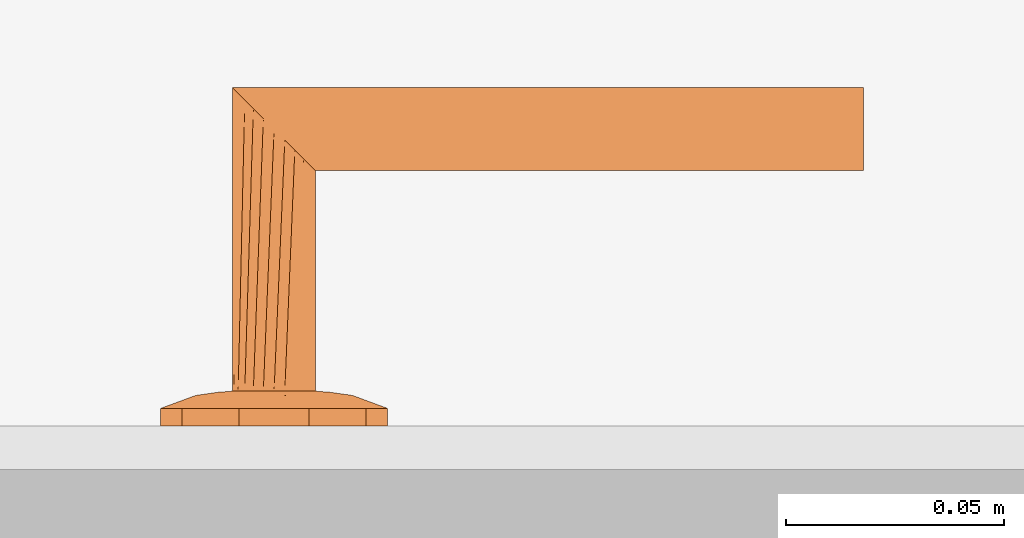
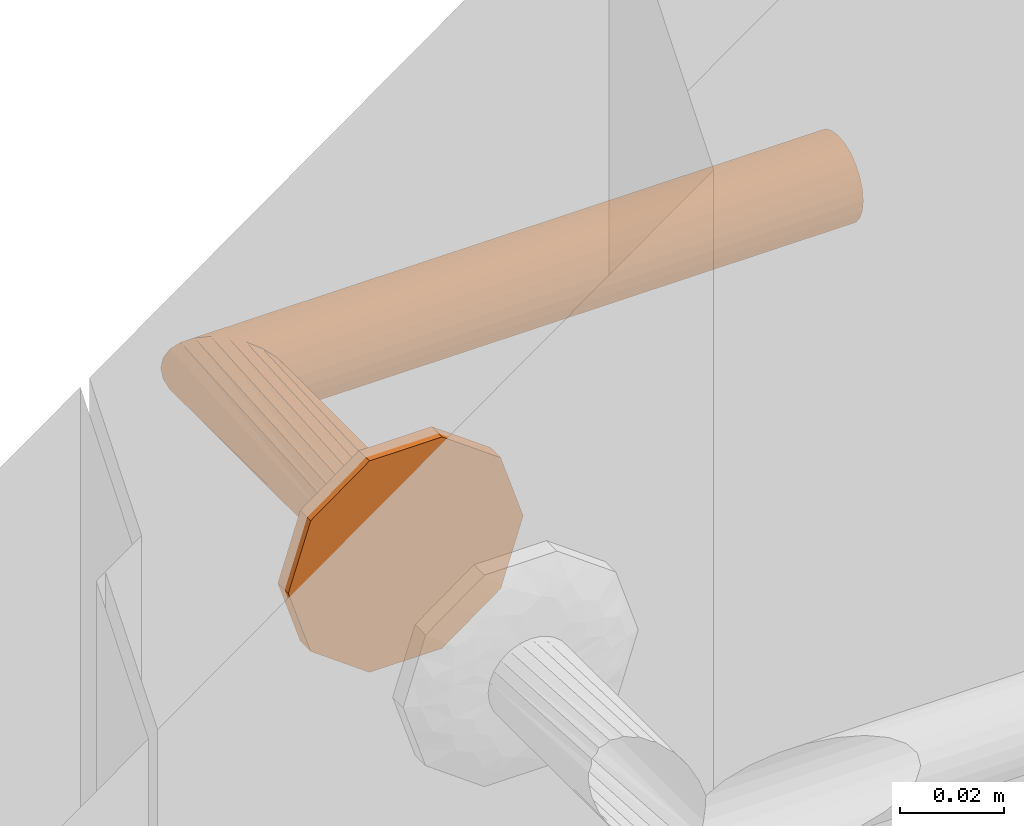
# One storey, part 32 of 55: 1 proxy.
"""IFC2X3 building model written with IfcOpenShell, lengths in millimetres."""

from ifc_helpers import new_model, entity, si_unit, converted_unit, direction, frame, origin, place, context, subcontext, project, spatial, faceted_brep, source, transform, mapped, material, type_object, type_shapes, element, save


model = new_model("IFC2X3")

# Units and contexts
model_context = context("Model", 3, precision=0.01, world=origin(), true_north=direction((6.123233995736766e-17, 1.0)))
plan_context = context("Plan", 3, precision=0.01, world=origin(), true_north=direction((6.123233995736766e-17, 1.0)))
body_context = subcontext(model_context, "Body", "Model", "MODEL_VIEW")
ifc_project = project(units=[si_unit("LENGTHUNIT", "METRE", prefix="MILLI"), converted_unit("PLANEANGLEUNIT", "DEGREE", entity("IfcPlaneAngleMeasure", 0.017453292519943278), si_unit("PLANEANGLEUNIT", "RADIAN"), dimensions=[0, 0, 0, 0, 0, 0, 0]), si_unit("AREAUNIT", "SQUARE_METRE")], contexts=[model_context, plan_context])

# Site, building, storey
site_placement = place(None, origin())
site = spatial("IfcSite", under=ifc_project, at=site_placement, Name="Default", CompositionType="ELEMENT")
building_placement = place(site_placement, origin())
building = spatial("IfcBuilding", under=site, at=building_placement, CompositionType="ELEMENT")
storey_placement = place(building_placement, origin())
storey = spatial("IfcBuildingStorey", under=building, at=storey_placement, Name="1K", CompositionType="ELEMENT", Elevation=0.0)

# Proxy
ifc_material = material(Name="<Unnamed>")
building_element_proxy_type = type_object("IfcBuildingElementProxyType", Name="Door-handle_Lever_ABLOY_INOXI_3-19ss-002_RT:Default", PredefinedType="NOTDEFINED", material=ifc_material)
shared_shape = source(origin(), body_context, "Body", "Brep", [
    faceted_brep([(0.0, 0.0, 0.0), (21.034441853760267, -15.282416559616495, 0.0), (14.534441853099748, -20.00494299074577, 0.0), (8.034441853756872, -24.72746942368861, 0.0), (0.0, -24.72746942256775, 0.0), (23.51722092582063, -7.6412082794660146, 0.0), (26.0, 0.0, 0.0), (-8.034441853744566, -24.727469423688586, 0.0), (-14.534441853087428, -20.00494299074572, 0.0), (-21.03444185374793, -15.282416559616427, 0.0), (-23.517220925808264, -7.641208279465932, 0.0), (-26.0, 0.0, 0.0), (-23.517220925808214, 7.641208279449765, 0.0), (23.517220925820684, 7.641208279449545, 0.0), (21.034441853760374, 15.282416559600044, 0.0), (14.53444185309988, 20.00494299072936, 0.0), (8.034441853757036, 24.72746942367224, 0.0), (-21.034441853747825, 15.282416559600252, 0.0), (-14.53444185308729, 20.004942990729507, 0.0), (-8.0344418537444, 24.72746942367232, 0.0), (0.0, 24.72746942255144, 0.0), (0.0, 0.0, 8.0), (4.7500000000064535, -8.227241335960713, 8.0), (5.937500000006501, -6.170431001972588, 8.0), (7.125000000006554, -4.113620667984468, 8.0), (8.312500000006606, -2.0568103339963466, 8.0), (9.500000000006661, 0.0, 8.0), (8.312500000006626, 2.056810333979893, 8.0), (2.3750000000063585, -8.227241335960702, 8.0), (0.0, -8.227241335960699, 8.0), (-2.3749999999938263, -8.227241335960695, 8.0), (-4.749999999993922, -8.227241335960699, 8.0), (-5.937499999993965, -6.170431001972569, 8.0), (-7.124999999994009, -4.113620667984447, 8.0), (-8.312499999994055, -2.056810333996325, 8.0), (-9.499999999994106, 0.0, 8.0), (7.125000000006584, 4.113620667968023, 8.0), (5.937500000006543, 6.170431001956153, 8.0), (4.750000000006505, 8.227241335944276, 8.0), (2.3750000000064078, 8.22724133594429, 8.0), (-8.31249999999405, 2.0568103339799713, 8.0), (-7.12499999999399, 4.113620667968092, 8.0), (-5.9374999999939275, 6.170431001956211, 8.0), (-4.74999999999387, 8.227241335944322, 8.0), (0.0, 8.227241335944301, 8.0), (-2.374999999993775, 8.227241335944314, 8.0), (-22.488765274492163, -10.806469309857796, 4.030771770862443), (-16.663919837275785, -7.932665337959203, 6.877259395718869), (-20.643071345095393, -6.292822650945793, 5.929480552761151), (-12.50457926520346, -5.179566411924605, 7.774932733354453), (-16.764060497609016, -3.820257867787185, 7.1747985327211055), (-9.071726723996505, -10.311606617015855, 7.7520782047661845), (-11.963426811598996, -8.625290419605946, 7.618343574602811), (-11.979136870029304, -13.678312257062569, 6.945778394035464), (5.7585542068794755, -20.96753300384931, 5.871476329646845), (0.0, -24.72746942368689, 4.030771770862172), (8.03444185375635, -24.727469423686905, 4.030771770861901), (16.66391982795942, -7.932665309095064, 6.877259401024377), (22.488765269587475, -10.806469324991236, 4.03077177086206), (20.64307133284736, -6.29282258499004, 5.929480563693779), (14.534441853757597, -20.004942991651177, 4.030771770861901), (9.499431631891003, -18.64368355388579, 6.154325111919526), (-15.783149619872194, -11.991003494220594, 6.50080018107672), (-21.034441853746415, -15.282416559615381, 4.030771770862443), (-14.53444185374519, -20.00494299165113, 4.030771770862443), (-23.012042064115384, 0.0, 5.135401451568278), (-23.943088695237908, -6.330522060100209, 4.030771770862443), (11.96342678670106, -8.62529049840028, 7.618343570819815), (12.504579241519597, -5.179566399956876, 7.774932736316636), (16.764060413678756, -3.8202578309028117, 7.17479855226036), (15.783149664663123, -11.991003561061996, 6.50080015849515), (17.985351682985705, 0.0, 6.993737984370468), (23.012042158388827, 0.0, 5.135401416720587), (8.661516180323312, -10.478936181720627, 7.768126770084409), (-8.03444185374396, -24.727469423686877, 4.030771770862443), (-3.3573143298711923, -21.197247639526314, 5.971427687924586), (-9.941915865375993, -17.061976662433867, 6.522757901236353), (-5.973257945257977, -16.430139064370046, 7.110979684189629), (-7.711266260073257, -12.760344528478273, 7.594456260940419), (11.979136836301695, -13.678312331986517, 6.945778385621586), (7.511307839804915, -13.358932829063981, 7.529187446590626), (5.953298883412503, -16.50608604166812, 7.096344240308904), (-1.5654593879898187, -15.307443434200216, 7.519134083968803), (-7.784980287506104, -20.476295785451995, 5.812837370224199), (2.8135289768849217, -17.76392260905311, 6.993737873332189), (-17.98535168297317, 0.0, 6.993737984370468), (-26.0, 0.0, 4.030771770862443), (-23.51722092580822, -7.641208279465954, 4.030771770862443), (23.943088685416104, -6.33052209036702, 4.030771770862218), (24.308823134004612, -5.204907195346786, 4.030771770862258), (26.0, 0.0, 4.030771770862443), (21.03444185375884, -15.282416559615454, 4.030771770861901), (22.617646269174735, -10.40981439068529, 4.030771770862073), (22.488765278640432, 10.806469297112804, 4.030771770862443), (16.66391984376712, 7.932665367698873, 6.877259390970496), (20.643071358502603, 6.292822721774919, 5.929480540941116), (12.504579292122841, 5.179566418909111, 7.774932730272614), (16.764060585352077, 3.8202579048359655, 7.174798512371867), (9.07172672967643, 10.31160659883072, 7.752078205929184), (11.963426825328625, 8.62529034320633, 7.618343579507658), (11.979136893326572, 13.67831220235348, 6.9457784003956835), (-5.758554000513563, 20.96753314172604, 5.8714763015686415), (0.0, 24.72746942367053, 4.030771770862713), (-8.03444185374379, 24.72746942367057, 4.030771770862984), (-16.663919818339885, 7.932665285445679, 6.877259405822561), (-22.48876526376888, 10.806469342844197, 4.030771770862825), (-20.643071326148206, 6.2928225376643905, 5.929480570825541), (-14.534441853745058, 20.004942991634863, 4.030771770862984), (-9.499431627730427, 18.643683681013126, 6.154325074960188), (15.783149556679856, 11.991003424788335, 6.5008002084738), (21.03444185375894, 15.282416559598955, 4.030771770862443), (14.534441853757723, 20.004942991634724, 4.030771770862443), (23.943088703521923, 6.330522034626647, 4.030771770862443), (-11.96342675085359, 8.625290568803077, 7.618343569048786), (-12.504579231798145, 5.179566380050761, 7.77493273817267), (-16.764060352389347, 3.820257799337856, 7.174798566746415), (-15.78314967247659, 11.991003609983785, 6.500800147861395), (-8.661516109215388, 10.478936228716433, 7.768126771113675), (8.034441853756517, 24.727469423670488, 4.030771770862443), (3.3573144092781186, 21.197247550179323, 5.971427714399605), (9.941915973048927, 17.061976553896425, 6.522757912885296), (5.9732581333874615, 16.430139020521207, 7.110979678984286), (7.711266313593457, 12.760344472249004, 7.5944562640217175), (-11.979136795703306, 13.678312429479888, 6.945778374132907), (-7.511307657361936, 13.358932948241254, 7.5291874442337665), (-5.9532988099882, 16.50608628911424, 7.096344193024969), (1.5654596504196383, 15.3074431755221, 7.519134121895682), (7.784980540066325, 20.476295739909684, 5.812837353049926), (-2.81352881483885, 17.76392263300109, 6.993737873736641), (23.51722092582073, 7.6412082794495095, 4.030771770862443), (-23.94308867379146, 6.330522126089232, 4.030771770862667), (-24.308823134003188, 5.20490719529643, 4.030771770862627), (-21.034441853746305, 15.282416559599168, 4.030771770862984), (-22.617646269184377, 10.409814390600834, 4.0307717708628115)], [[[0, 1, 2]], [[0, 2, 3]], [[0, 3, 4]], [[0, 5, 1]], [[0, 6, 5]], [[0, 4, 7]], [[0, 7, 8]], [[0, 8, 9]], [[0, 9, 10]], [[0, 10, 11]], [[0, 11, 12]], [[0, 13, 6]], [[0, 14, 13]], [[0, 15, 14]], [[0, 16, 15]], [[0, 12, 17]], [[0, 17, 18]], [[0, 18, 19]], [[0, 19, 20]], [[0, 20, 16]], [[21, 22, 23]], [[21, 23, 24]], [[21, 24, 25]], [[21, 25, 26]], [[21, 26, 27]], [[21, 28, 22]], [[21, 29, 28]], [[21, 30, 29]], [[21, 31, 30]], [[21, 32, 31]], [[21, 33, 32]], [[21, 34, 33]], [[21, 35, 34]], [[21, 27, 36]], [[21, 36, 37]], [[21, 37, 38]], [[21, 38, 39]], [[21, 40, 35]], [[21, 41, 40]], [[21, 42, 41]], [[21, 43, 42]], [[21, 39, 44]], [[21, 44, 45]], [[21, 45, 43]], [[46, 47, 48]], [[47, 49, 50]], [[49, 33, 34]], [[51, 52, 53]], [[49, 52, 33]], [[48, 47, 50]], [[54, 55, 56]], [[57, 58, 59]], [[56, 60, 61]], [[62, 63, 64]], [[65, 66, 48]], [[67, 57, 68]], [[68, 69, 25]], [[57, 67, 70]], [[69, 26, 25]], [[62, 53, 52]], [[71, 69, 72]], [[67, 23, 73]], [[74, 55, 75]], [[76, 77, 78]], [[79, 60, 70]], [[69, 59, 72]], [[80, 81, 61]], [[77, 30, 78]], [[82, 30, 77]], [[28, 80, 22]], [[77, 83, 75]], [[75, 82, 77]], [[55, 84, 75]], [[85, 50, 35]], [[24, 68, 25]], [[82, 84, 29]], [[84, 82, 75]], [[31, 78, 30]], [[82, 29, 30]], [[34, 35, 50]], [[52, 49, 47]], [[62, 52, 47]], [[34, 50, 49]], [[53, 78, 51]], [[32, 33, 52]], [[85, 65, 50]], [[66, 65, 86]], [[67, 68, 24]], [[77, 76, 83]], [[65, 48, 50]], [[63, 62, 46]], [[48, 66, 87, 46]], [[62, 47, 46]], [[69, 68, 57]], [[80, 73, 22]], [[70, 67, 79]], [[67, 24, 23]], [[72, 88, 89, 90]], [[69, 71, 26]], [[59, 69, 57]], [[61, 60, 79]], [[62, 64, 53]], [[91, 58, 70]], [[72, 59, 88]], [[57, 70, 58]], [[59, 58, 92]], [[80, 61, 79]], [[91, 70, 60]], [[61, 81, 54]], [[73, 80, 79]], [[28, 84, 81]], [[67, 73, 79]], [[29, 84, 28]], [[22, 73, 23]], [[51, 31, 32]], [[76, 78, 53]], [[53, 64, 76]], [[83, 64, 74]], [[64, 83, 76]], [[75, 83, 74]], [[31, 51, 78]], [[52, 51, 32]], [[28, 81, 80]], [[54, 81, 84]], [[55, 54, 84]], [[61, 54, 56]], [[93, 94, 95]], [[94, 96, 97]], [[96, 36, 27]], [[98, 99, 100]], [[96, 99, 36]], [[95, 94, 97]], [[101, 102, 103]], [[104, 105, 106]], [[103, 107, 108]], [[109, 110, 111]], [[72, 112, 95]], [[113, 104, 114]], [[114, 115, 40]], [[104, 113, 116]], [[115, 35, 40]], [[109, 100, 99]], [[85, 115, 65]], [[113, 42, 117]], [[118, 102, 119]], [[120, 121, 122]], [[123, 107, 116]], [[115, 106, 65]], [[124, 125, 108]], [[121, 39, 122]], [[126, 39, 121]], [[45, 124, 43]], [[121, 127, 119]], [[119, 126, 121]], [[102, 128, 119]], [[71, 97, 26]], [[41, 114, 40]], [[126, 128, 44]], [[128, 126, 119]], [[38, 122, 39]], [[126, 44, 39]], [[27, 26, 97]], [[99, 96, 94]], [[109, 99, 94]], [[27, 97, 96]], [[100, 122, 98]], [[37, 36, 99]], [[71, 72, 97]], [[112, 72, 90]], [[113, 114, 41]], [[121, 120, 127]], [[72, 95, 97]], [[110, 109, 93]], [[95, 112, 129, 93]], [[109, 94, 93]], [[115, 114, 104]], [[124, 117, 43]], [[116, 113, 123]], [[113, 41, 42]], [[65, 130, 131, 86]], [[115, 85, 35]], [[106, 115, 104]], [[108, 107, 123]], [[109, 111, 100]], [[132, 105, 116]], [[65, 106, 130]], [[104, 116, 105]], [[106, 105, 133]], [[124, 108, 123]], [[132, 116, 107]], [[108, 125, 101]], [[117, 124, 123]], [[45, 128, 125]], [[113, 117, 123]], [[44, 128, 45]], [[43, 117, 42]], [[98, 38, 37]], [[120, 122, 100]], [[100, 111, 120]], [[127, 111, 118]], [[111, 127, 120]], [[119, 127, 118]], [[38, 98, 122]], [[99, 98, 37]], [[45, 125, 124]], [[101, 125, 128]], [[102, 101, 128]], [[108, 101, 103]], [[7, 74, 64, 63, 9, 8]], [[10, 9, 63, 46, 87, 66, 86, 11]], [[6, 90, 89, 88, 92, 1, 5]], [[1, 58, 91]], [[74, 7, 4, 3, 56, 55]], [[60, 56, 3, 2, 1, 91]], [[1, 92, 58]], [[14, 110, 93, 129, 112, 90, 6, 13]], [[111, 110, 14, 15, 16, 118]], [[11, 86, 131, 130, 133, 17, 12]], [[17, 105, 132]], [[118, 16, 20, 19, 103, 102]], [[107, 103, 19, 18, 17, 132]], [[17, 133, 105]], [[59, 92, 88]], [[106, 133, 130]]]),
    faceted_brep([(4.7499999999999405, -8.22724133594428, 8.0), (2.4587809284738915, -9.176295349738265, 8.0), (0.0, -9.499999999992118, 8.0), (-2.4587809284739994, -9.176295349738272, 8.0), (-4.7500000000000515, -8.227241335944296, 8.0), (-6.717514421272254, -6.717514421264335, 8.0), (-8.227241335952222, -4.74999999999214, 8.0), (-9.176295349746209, -2.4587809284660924, 8.0), (-9.500000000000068, 0.0, 8.0), (-9.176295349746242, 2.458780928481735, 8.0), (-8.227241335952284, 4.750000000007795, 8.0), (-6.717514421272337, 6.717514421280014, 8.0), (-4.750000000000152, 8.227241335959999, 8.0), (-2.4587809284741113, 9.176295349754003, 8.0), (0.0, 9.500000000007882, 8.0), (2.4587809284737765, 9.176295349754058, 8.0), (4.7499999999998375, 8.227241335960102, 8.0), (6.717514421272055, 6.717514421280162, 8.0), (8.22724133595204, 4.75000000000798, 8.0), (9.17629534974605, 2.458780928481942, 8.0), (9.499999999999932, 0.0, 8.0), (9.17629534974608, -2.458780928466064, 8.0), (8.227241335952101, -4.749999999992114, 8.0), (6.717514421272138, -6.7175144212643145, 8.0), (-8.227241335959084, 4.7499999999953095, 59.772758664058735), (-6.717514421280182, 6.7175144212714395, 61.282485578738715), (-9.176295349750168, 2.458780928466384, 58.82370465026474), (-4.750000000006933, 8.227241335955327, 63.25000000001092), (-2.4587809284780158, 9.176295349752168, 65.54121907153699), (-9.500000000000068, 0.0, 58.50000000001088), (0.0, 9.50000000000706, 68.0), (4.750000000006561, 8.227241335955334, 72.75000000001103), (2.4587809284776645, 9.17629534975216, 70.45878092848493), (6.717514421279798, 6.7175144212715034, 74.71751442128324), (8.22724133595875, 4.749999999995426, 76.22724133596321), (9.17629534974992, 2.458780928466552, 77.17629534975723), (9.499999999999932, 0.0, 77.50000000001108), (9.176295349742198, -2.4587809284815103, 77.1762953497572), (8.227241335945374, -4.750000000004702, 76.22724133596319), (6.7175144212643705, -6.717514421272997, 74.7175144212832), (4.749999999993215, -8.227241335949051, 72.75000000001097), (2.4587809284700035, -9.17629534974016, 70.45878092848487), (0.0, -9.49999999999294, 68.0), (-2.4587809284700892, -9.176295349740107, 65.54121907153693), (-4.749999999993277, -8.227241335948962, 63.250000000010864), (-6.717514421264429, -6.717514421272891, 61.282485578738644), (-9.176295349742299, -2.458780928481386, 58.8237046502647), (-8.227241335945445, -4.750000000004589, 59.77275866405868), (-135.0, -9.176295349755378, 70.4587809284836), (-135.0, -8.227241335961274, 72.75000000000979), (-135.0, -6.717514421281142, 74.71751442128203), (-135.0, -4.750000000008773, 76.22724133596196), (-135.0, -2.4587809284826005, 77.17629534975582), (-135.0, 0.0, 77.5000000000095), (-135.0, 2.4587809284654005, 77.17629534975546), (-135.0, 4.749999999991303, 76.22724133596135), (-135.0, 6.717514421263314, 74.71751442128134), (-135.0, 8.227241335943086, 72.75000000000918), (-135.0, 9.17629534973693, 70.45878092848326), (-135.0, 9.499999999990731, 68.0), (-135.0, 9.17629534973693, 65.54121907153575), (-135.0, 8.227241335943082, 63.250000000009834), (-135.0, 6.717514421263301, 61.28248557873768), (-135.0, 4.749999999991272, 59.772758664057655), (-135.0, 2.458780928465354, 58.823704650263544), (-135.0, 0.0, 58.50000000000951), (-135.0, -2.458780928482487, 58.82370465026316), (-135.0, -4.750000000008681, 59.772758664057), (-135.0, -6.7175144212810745, 61.28248557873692), (-135.0, -8.227241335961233, 63.25000000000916), (-135.0, -9.176295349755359, 65.54121907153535), (-135.0, -9.500000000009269, 68.0)], [[[0, 1, 2, 3, 4, 5, 6, 7, 8, 9, 10, 11, 12, 13, 14, 15, 16, 17, 18, 19, 20, 21, 22, 23]], [[24, 25, 11, 10]], [[26, 24, 10, 9]], [[14, 27, 28]], [[13, 27, 14]], [[25, 27, 13]], [[29, 26, 9, 8]], [[12, 11, 25]], [[25, 13, 12]], [[28, 30, 15]], [[31, 17, 32]], [[33, 18, 31]], [[19, 34, 35]], [[33, 34, 19]], [[20, 19, 35, 36]], [[16, 15, 30]], [[14, 28, 15]], [[19, 18, 33]], [[17, 31, 18]], [[17, 16, 32]], [[30, 32, 16]], [[20, 36, 37, 21]], [[38, 21, 37]], [[22, 39, 40]], [[38, 39, 21]], [[23, 40, 41]], [[39, 22, 21]], [[1, 42, 43]], [[42, 1, 0]], [[23, 41, 0]], [[23, 22, 40]], [[41, 42, 0]], [[44, 45, 3]], [[43, 44, 2]], [[46, 29, 8, 7]], [[47, 46, 7, 6]], [[45, 47, 6, 5]], [[45, 4, 3]], [[3, 2, 44]], [[5, 4, 45]], [[43, 2, 1]], [[48, 49, 50, 51, 52, 53, 54, 55, 56, 57, 58, 59, 60, 61, 62, 63, 64, 65, 66, 67, 68, 69, 70, 71]], [[64, 63, 24, 26]], [[65, 64, 26, 29]], [[61, 60, 28, 27]], [[62, 61, 27, 25]], [[63, 62, 25, 24]], [[59, 30, 28, 60]], [[57, 56, 33, 31]], [[58, 57, 31, 32]], [[54, 53, 36, 35]], [[55, 54, 35, 34]], [[56, 55, 34, 33]], [[32, 30, 59, 58]], [[52, 51, 38, 37]], [[53, 52, 37, 36]], [[49, 48, 41, 40]], [[50, 49, 40, 39]], [[51, 50, 39, 38]], [[42, 41, 48, 71]], [[69, 68, 45, 44]], [[70, 69, 44, 43]], [[66, 65, 29, 46]], [[67, 66, 46, 47]], [[68, 67, 47, 45]], [[42, 71, 70, 43]]]),
])
type_shapes(building_element_proxy_type, [shared_shape])
proxy_placement = place(storey_placement, frame((3795.0, 6821.0000000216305, 1100.0), z_axis=(0.0, 1.0, 0.0), x_axis=(-1.0, 0.0, 0.0)))
element("IfcBuildingElementProxy", 1, at=proxy_placement, inside=storey, type_object=building_element_proxy_type, material=ifc_material, Name="Door-handle_Lever_ABLOY_INOXI_3-19ss-002_RT:Default", ObjectType="Door-handle_Lever_ABLOY_INOXI_3-19ss-002_RT:Default", context=body_context, shape_type="MappedRepresentation", body=[
    mapped(shared_shape, transform((0.0, 0.0, 0.0), scale=1.0)),
])

save(model, "model.ifc")
